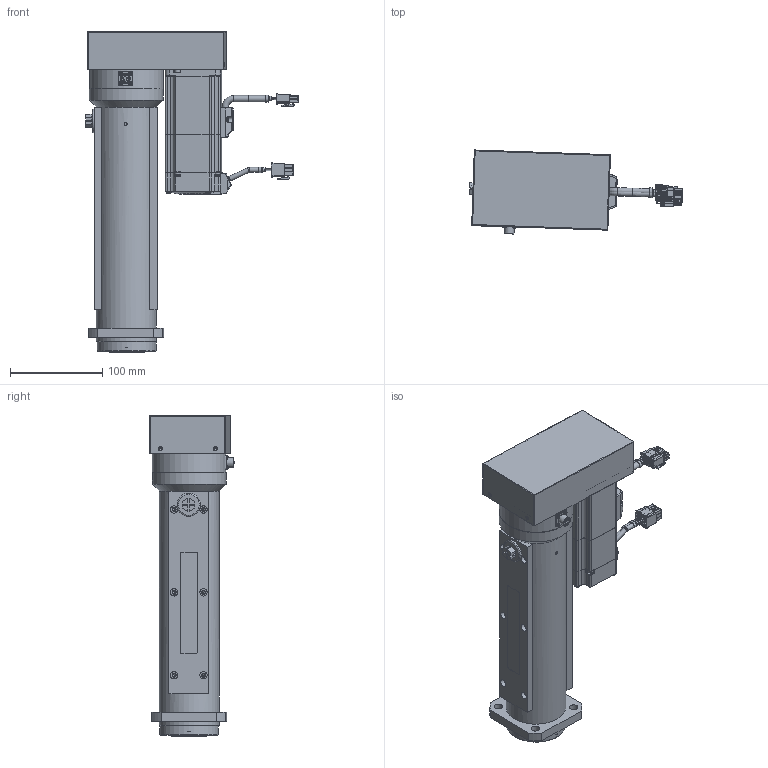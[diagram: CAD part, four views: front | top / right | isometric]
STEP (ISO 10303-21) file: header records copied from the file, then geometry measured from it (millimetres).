
FILE_DESCRIPTION( ('This file contains a STEP AP42 implementation' ,'as created by ZW3D STEP Interface translator.') ,'2;1' );
FILE_NAME( 'OACIS-DC-ATA-P001P002-150-400-A6_V20.01.stp' ,'25 519. 84755', (''), ('ZWCAD Software Co.'), 'Version 1.0', 'ZW3D to STEP translator', '' );
FILE_SCHEMA(('AUTOMOTIVE_DESIGN { 1 0 10303 214 1 1 1 1 }'));
Length unit declared in the file: millimetre
Products named in the file (1): 0
Bounding box: 231.14 x 91.24 x 348.5 mm (x, y, z)
Volume: 2026399.8 mm3; surface area: 507692.2 mm2
Topology: 38 solids, 47 shells, 3612 faces, 9648 edges, 6413 vertices
Faces by surface type: plane 1842, cylinder 1294, cone 327, torus 104, sphere 33, bspline 12
Full cylindrical faces by diameter (mm): 1 x29, 1.567 x4, 1.754 x2, 1.755 x2, 1.82 x8, 2 x5, 2.2 x4, 2.5 x8, 2.6 x30, 3.242 x30, 3.3 x21, 3.4 x4, 4 x10, 4.134 x10, 4.3 x12, 4.5 x30, 4.917 x1, 5 x6, 5.1 x4, 5.5 x16, 6 x32, 6.5 x4, 6.799 x6, 7 x10, 7.188 x1, 7.8 x2, 8 x16, 9 x5, 9.5 x4, 10.5 x1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
Entity records: 124127 total; most frequent: CARTESIAN_POINT 22330, DIRECTION 20325, ORIENTED_EDGE 19162, EDGE_CURVE 9581, AXIS2_PLACEMENT_3D 7550, VERTEX_POINT 6413, VECTOR 5225, LINE 5225
